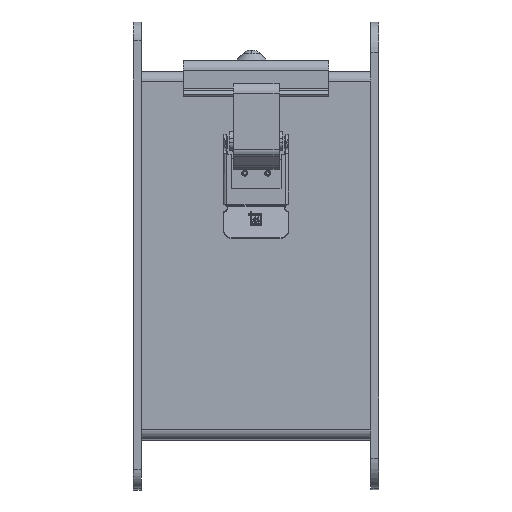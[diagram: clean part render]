
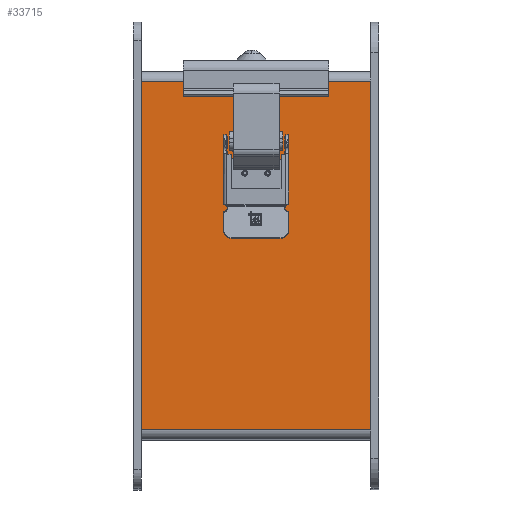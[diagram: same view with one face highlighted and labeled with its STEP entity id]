
A CAD part, top view. The second image highlights one B-rep face of the part: STEP entity #33715.
In plain terms, the highlighted planar face has unit normal (0, 0, 1) as drawn and (-1, 0, 0) by its records, which use the part's own axes.
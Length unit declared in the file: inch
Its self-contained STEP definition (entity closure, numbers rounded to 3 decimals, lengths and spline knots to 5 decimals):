
#12427 = AXIS2_PLACEMENT_3D ( 'NONE', #26475, #26480, #26481 ) ;
#13887 = CARTESIAN_POINT ( 'NONE',  ( -6., 5.848, 1.875 ) ) ;
#13891 = CARTESIAN_POINT ( 'NONE',  ( -6., 5.848, -1.875 ) ) ;
#13895 = CARTESIAN_POINT ( 'NONE',  ( -6., 0.152, -1.875 ) ) ;
#13897 = CARTESIAN_POINT ( 'NONE',  ( -6., 0.152, 1.875 ) ) ;
#16306 = LINE ( 'NONE', #18524, #16310 ) ;
#16310 = VECTOR ( 'NONE', #18527, 39.37008 ) ;
#16314 = LINE ( 'NONE', #18541, #16321 ) ;
#16321 = VECTOR ( 'NONE', #18545, 39.37008 ) ;
#16378 = LINE ( 'NONE', #18652, #16419 ) ;
#16388 = LINE ( 'NONE', #18658, #16424 ) ;
#16419 = VECTOR ( 'NONE', #18659, 39.37008 ) ;
#16424 = VECTOR ( 'NONE', #18665, 39.37008 ) ;
#18524 = CARTESIAN_POINT ( 'NONE',  ( -6., 0., -1.875 ) ) ;
#18527 = DIRECTION ( 'NONE',  ( 0., -1., 0. ) ) ;
#18541 = CARTESIAN_POINT ( 'NONE',  ( -6., 0., 1.875 ) ) ;
#18545 = DIRECTION ( 'NONE',  ( 0., -1., 0. ) ) ;
#18652 = CARTESIAN_POINT ( 'NONE',  ( -6., 5.848, 1.875 ) ) ;
#18658 = CARTESIAN_POINT ( 'NONE',  ( -6., 0.152, 1.875 ) ) ;
#18659 = DIRECTION ( 'NONE',  ( 0., 0., -1. ) ) ;
#18665 = DIRECTION ( 'NONE',  ( 0., 0., -1. ) ) ;
#20856 = FACE_OUTER_BOUND ( 'NONE', #28282, .T. ) ;
#26475 = CARTESIAN_POINT ( 'NONE',  ( -6., 0., 1.875 ) ) ;
#26477 = PLANE ( 'NONE',  #12427 ) ;
#26480 = DIRECTION ( 'NONE',  ( 1., 0., 0. ) ) ;
#26481 = DIRECTION ( 'NONE',  ( 0., 1., 0. ) ) ;
#28282 = EDGE_LOOP ( 'NONE', ( #34298, #34299, #34300, #34301 ) ) ;
#29405 = VERTEX_POINT ( 'NONE', #13887 ) ;
#29409 = VERTEX_POINT ( 'NONE', #13891 ) ;
#29413 = VERTEX_POINT ( 'NONE', #13895 ) ;
#29415 = VERTEX_POINT ( 'NONE', #13897 ) ;
#31379 = EDGE_CURVE ( 'NONE', #29409, #29413, #16306, .T. ) ;
#31386 = EDGE_CURVE ( 'NONE', #29405, #29415, #16314, .T. ) ;
#31439 = EDGE_CURVE ( 'NONE', #29405, #29409, #16378, .T. ) ;
#31442 = EDGE_CURVE ( 'NONE', #29415, #29413, #16388, .T. ) ;
#33715 = ADVANCED_FACE ( 'NONE', ( #20856 ), #26477, .F. ) ;
#34298 = ORIENTED_EDGE ( 'NONE', *, *, #31379, .T. ) ;
#34299 = ORIENTED_EDGE ( 'NONE', *, *, #31442, .F. ) ;
#34300 = ORIENTED_EDGE ( 'NONE', *, *, #31386, .F. ) ;
#34301 = ORIENTED_EDGE ( 'NONE', *, *, #31439, .T. ) ;
